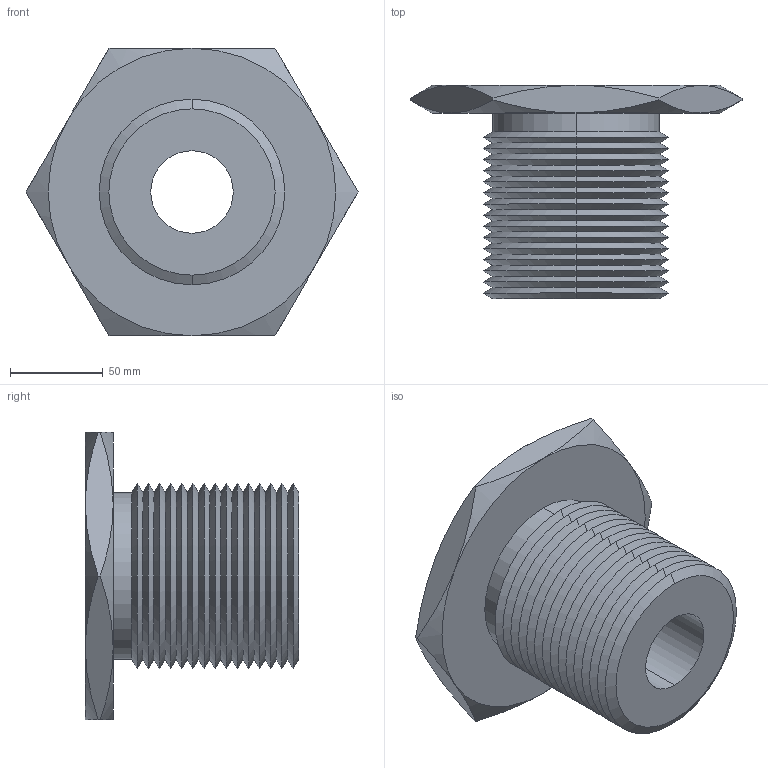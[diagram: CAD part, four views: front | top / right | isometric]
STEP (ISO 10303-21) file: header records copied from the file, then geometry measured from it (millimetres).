
FILE_DESCRIPTION (( 'STEP AP203' ), '1' );
FILE_NAME ('63302.W0100_1,75 UNC-5.step', '2013-12-08T11:33:13', ( 'User' ), ( '' ), 'SwSTEP 2.0', 'SolidWorks 2009', '' );
FILE_SCHEMA (( 'CONFIG_CONTROL_DESIGN' ));
Length unit declared in the file: millimetre
Products named in the file (1): 63302.W0100_1,75 UNC-5
Bounding box: 178.98 x 115 x 155 mm (x, y, z)
Volume: 822623 mm3; surface area: 116715.1 mm2
Topology: 1 solids, 1 shells, 87 faces, 178 edges, 94 vertices
Faces by surface type: cone 74, plane 9, cylinder 4
Entity records: 2479 total; most frequent: CARTESIAN_POINT 584, DIRECTION 412, ORIENTED_EDGE 356, EDGE_CURVE 178, AXIS2_PLACEMENT_3D 170, VERTEX_POINT 94, EDGE_LOOP 90, FACE_OUTER_BOUND 87
